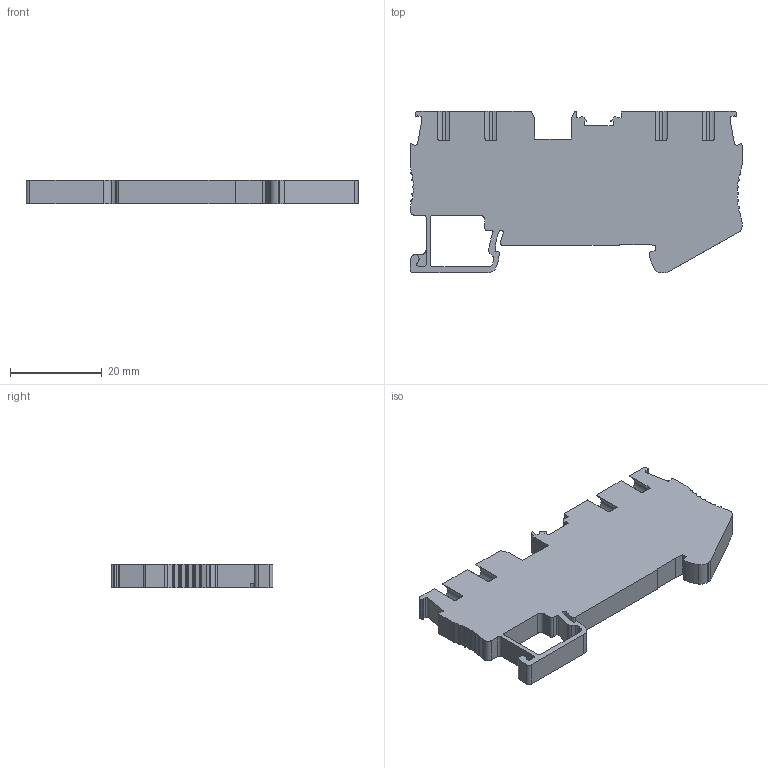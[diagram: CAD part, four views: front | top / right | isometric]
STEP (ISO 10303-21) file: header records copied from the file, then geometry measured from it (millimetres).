
FILE_DESCRIPTION(/* description */ (''),/* implementation_level */ '2;1');
FILE_NAME(/* name */ 'UPT-2.5-2-2 ASSY.stp',/* time_stamp */ '2024-04-26T14:27:41+08:00',/* author */ (''),/* organization */ (''),/* preprocessor_version */ 'ST-DEVELOPER v16.7',/* originating_system */ 'SIEMENS PLM Software NX 12.0',/* authorisation */ '');
FILE_SCHEMA (('AUTOMOTIVE_DESIGN { 1 0 10303 214 3 1 1 1 }'));
Length unit declared in the file: millimetre
Products named in the file (1): Admi0EB4BAB8ixhc
Bounding box: 72.4 x 35.3 x 5.2 mm (x, y, z)
Volume: 9192.1 mm3; surface area: 7182.4 mm2
Topology: 1 solids, 1 shells, 705 faces, 2036 edges, 1326 vertices
Faces by surface type: plane 397, cylinder 262, cone 24, torus 22
Entity records: 23387 total; most frequent: CARTESIAN_POINT 4502, ORIENTED_EDGE 4040, DIRECTION 3934, EDGE_CURVE 2020, LINE 1368, VECTOR 1368, VERTEX_POINT 1326, AXIS2_PLACEMENT_3D 1283
